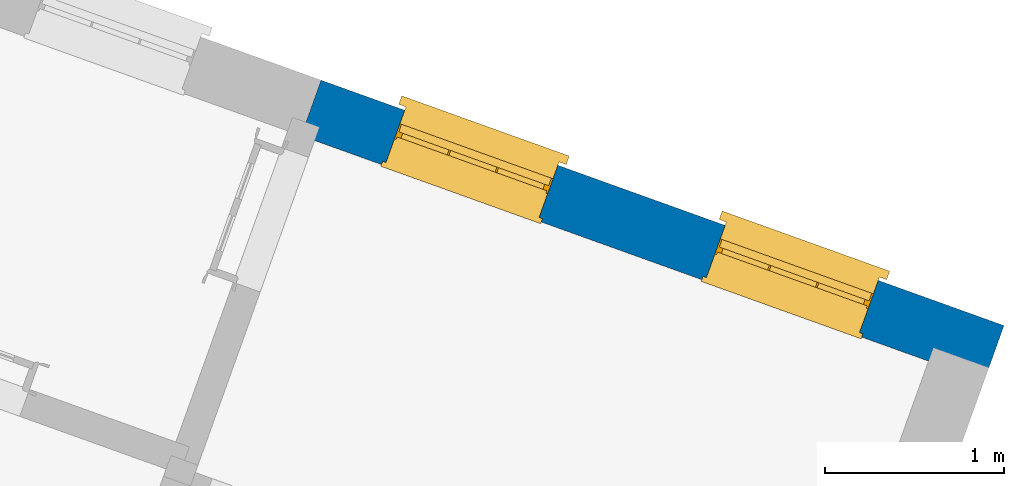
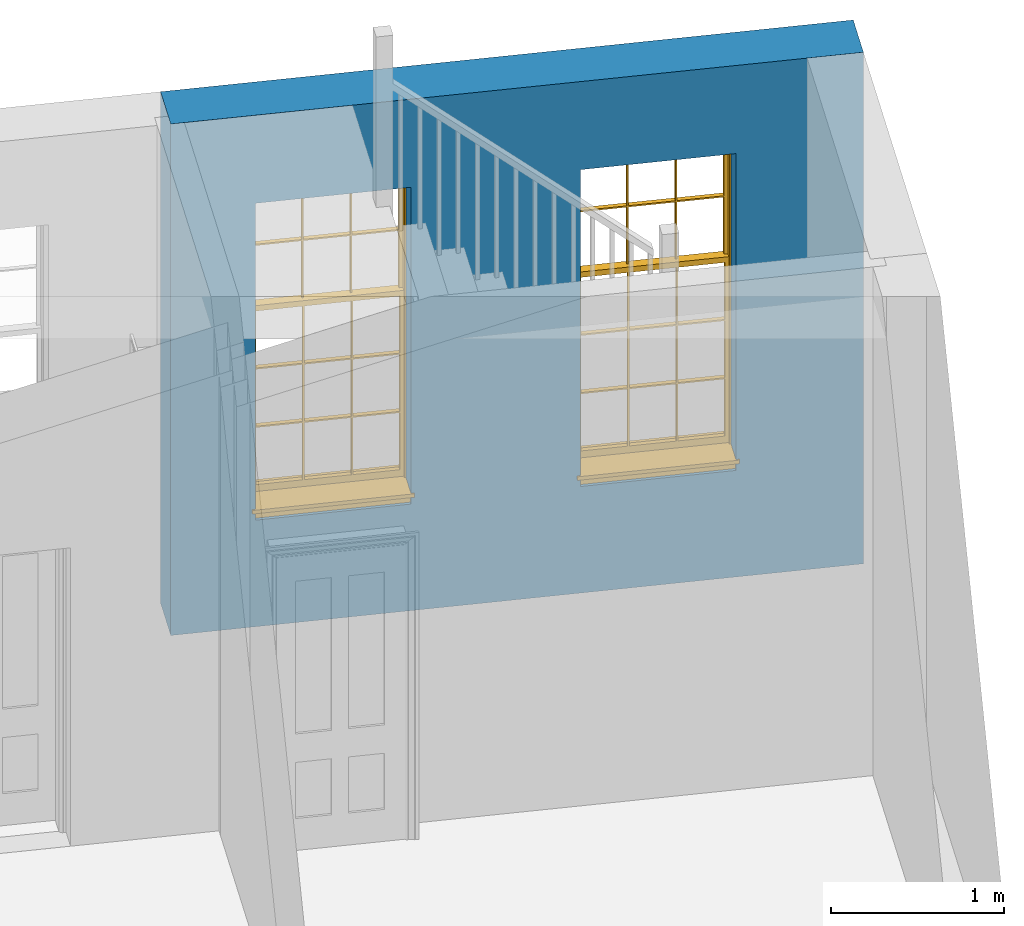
# One storey, part 4 of 6: 2 windows, 1 wall, 2 openings.
"""IFC4 building model written with IfcOpenShell, lengths in metres."""

import ifcopenshell
import ifcopenshell.guid

model = None  # the IFC model being written
_history = None  # IfcOwnerHistory: only IFC2X3 demands one
_inside = {}  # id of a spatial element -> (the spatial element, [elements in it])
_under = {}  # id of a project, library or spatial element -> (it, [spatial elements below it])
_declared = {}  # id of a project -> (the project, [libraries it declares])
_typed = {}  # id of a type object -> (the type object, [elements of that type])
_made_of = {}  # id of a material, layer set ... -> (it, [elements and type objects made of it])


def new_model(schema):
    """Start an empty IFC model of exactly this schema.

    Asked for "IFC4X3", IfcOpenShell would pick the latest addendum, in which some entities
    have other attributes; the version numbers below select the first issue.
    IFC2X3 requires an IfcOwnerHistory on every rooted entity: one is made here for all.
    """
    global model, _history
    if schema == "IFC4X3":
        model = ifcopenshell.file(schema_version=(4, 3, 0, 0))
    else:
        model = ifcopenshell.file(schema=schema)
    _inside.clear()
    _under.clear()
    _declared.clear()
    _typed.clear()
    _made_of.clear()
    _history = None
    if model.schema == "IFC2X3":
        org = make("IfcOrganization", Name="unknown")
        user = make(
            "IfcPersonAndOrganization",
            ThePerson=make("IfcPerson", FamilyName="unknown"),
            TheOrganization=org,
        )
        app = make(
            "IfcApplication",
            ApplicationDeveloper=org,
            Version="unknown",
            ApplicationFullName="unknown",
            ApplicationIdentifier="unknown",
        )
        _history = make(
            "IfcOwnerHistory",
            OwningUser=user,
            OwningApplication=app,
            ChangeAction="ADDED",
            CreationDate=0,
        )
    return model


def make(cls, **values):
    """One entity of the class cls with the attributes given. An attribute that is None is left unset."""
    return model.create_entity(
        cls, **{name: value for name, value in values.items() if value is not None}
    )


def rooted(cls, **values):
    """An entity with a GlobalId (a new one), such as an element, a storey or a relation."""
    return make(cls, GlobalId=ifcopenshell.guid.new(), OwnerHistory=_history, **values)


def si_unit(unit_type, name, prefix=None):
    """IfcSIUnit, for example si_unit("LENGTHUNIT", "METRE", prefix="MILLI")."""
    return make("IfcSIUnit", UnitType=unit_type, Prefix=prefix, Name=name)


def assignment(units):
    """IfcUnitAssignment: the units of a project."""
    return None if units is None else make("IfcUnitAssignment", Units=units)


def point(xyz):
    """IfcCartesianPoint."""
    return None if xyz is None else make("IfcCartesianPoint", Coordinates=xyz)


def direction(xyz):
    """IfcDirection."""
    return None if xyz is None else make("IfcDirection", DirectionRatios=xyz)


def frame(location, z_axis=None, x_axis=None):
    """IfcAxis2Placement3D, a coordinate frame: its origin and axes. An axis left out is left unset."""
    return make(
        "IfcAxis2Placement3D",
        Location=point(location),
        Axis=direction(z_axis),
        RefDirection=direction(x_axis),
    )


def origin():
    """The frame at (0, 0, 0) with its axes left unset."""
    return frame((0.0, 0.0, 0.0))


def origin_with_axes():
    """The frame at (0, 0, 0) with the z axis (0, 0, 1) and the x axis (1, 0, 0) written out."""
    return frame((0.0, 0.0, 0.0), z_axis=(0.0, 0.0, 1.0), x_axis=(1.0, 0.0, 0.0))


def place(relative_to, where):
    """IfcLocalPlacement: puts the frame where relative to a parent placement (None: the world)."""
    return make(
        "IfcLocalPlacement", PlacementRelTo=relative_to, RelativePlacement=where
    )


def context(
    kind, dimensions, precision=None, world=None, true_north=None, identifier=None
):
    """IfcGeometricRepresentationContext, for example the 3D "Model" context."""
    return make(
        "IfcGeometricRepresentationContext",
        ContextIdentifier=identifier,
        ContextType=kind,
        CoordinateSpaceDimension=dimensions,
        Precision=precision,
        WorldCoordinateSystem=world,
        TrueNorth=true_north,
    )


def subcontext(parent, identifier, kind, view, scale=None):
    """IfcGeometricRepresentationSubContext, for example "Body" below "Model"."""
    return make(
        "IfcGeometricRepresentationSubContext",
        ContextIdentifier=identifier,
        ContextType=kind,
        ParentContext=parent,
        TargetScale=scale,
        TargetView=view,
    )


def project(units=None, contexts=None):
    """IfcProject with its units and contexts."""
    return rooted(
        "IfcProject",
        Name="project",
        RepresentationContexts=contexts,
        UnitsInContext=assignment(units),
    )


def spatial(cls, under=None, at=None, **own):
    """A site, building, storey or space (cls), placed at a placement, below another one or the project."""
    s = rooted(cls, ObjectPlacement=at, **own)
    if under is not None:
        _under.setdefault(under.id(), (under, []))[1].append(s)
    return s


def polyline(points):
    """IfcPolyline through the points."""
    return make("IfcPolyline", Points=[point(p) for p in points])


def outline(outer, holes=None, kind="AREA"):
    """IfcArbitraryClosedProfileDef: a profile drawn as a closed curve; with holes, ...WithVoids."""
    if holes is None:
        return make("IfcArbitraryClosedProfileDef", ProfileType=kind, OuterCurve=outer)
    return make(
        "IfcArbitraryProfileDefWithVoids",
        ProfileType=kind,
        OuterCurve=outer,
        InnerCurves=holes,
    )


def extrude(swept, where, along, depth):
    """IfcExtrudedAreaSolid: the profile swept, set in the frame where, extruded along a direction by depth."""
    return make(
        "IfcExtrudedAreaSolid",
        SweptArea=swept,
        Position=where,
        ExtrudedDirection=direction(along),
        Depth=depth,
    )


def faces_of(points, faces, orient=None, outer=None):
    """IfcFace entities. A face is a list of loops; a loop is a list of indices into points, from 0.

    orient and outer hold one flag for each loop. By default every Orientation is true, the
    first loop of a face is its IfcFaceOuterBound and the others are IfcFaceBound.
    """
    made = []
    for i, loops in enumerate(faces):
        bounds = []
        for j, loop in enumerate(loops):
            is_outer = j == 0 if outer is None else outer[i][j]
            bounds.append(
                make(
                    "IfcFaceOuterBound" if is_outer else "IfcFaceBound",
                    Bound=make("IfcPolyLoop", Polygon=[points[k] for k in loop]),
                    Orientation=True if orient is None else orient[i][j],
                )
            )
        made.append(make("IfcFace", Bounds=bounds))
    return made


def faceted_brep(points, faces, orient=None, outer=None, voids=None):
    """IfcFacetedBrep: a solid bounded by flat faces; with voids (closed shells), ...WithVoids."""
    shared = [point(p) for p in points]
    hull = make("IfcClosedShell", CfsFaces=faces_of(shared, faces, orient, outer))
    if voids is None:
        return make("IfcFacetedBrep", Outer=hull)
    return make(
        "IfcFacetedBrepWithVoids",
        Outer=hull,
        Voids=[
            make(cls, CfsFaces=faces_of(shared, fs, o, b)) for cls, fs, o, b in voids
        ],
    )


def shape(context_of_items, identifier, shape_type, items):
    """IfcShapeRepresentation: the items that make up one representation, for example the "Body"."""
    return make(
        "IfcShapeRepresentation",
        ContextOfItems=context_of_items,
        RepresentationIdentifier=identifier,
        RepresentationType=shape_type,
        Items=items,
    )


def source(mapping_origin, context_of_items, identifier, shape_type, items):
    """IfcRepresentationMap: a shape defined once, which mapped items show again and again."""
    return make(
        "IfcRepresentationMap",
        MappingOrigin=mapping_origin,
        MappedRepresentation=shape(context_of_items, identifier, shape_type, items),
    )


def transform(
    local_origin,
    x_axis=None,
    y_axis=None,
    z_axis=None,
    scale=None,
    scale2=None,
    scale3=None,
    uniform=True,
):
    """IfcCartesianTransformationOperator3D, or its non-uniform kind. x_axis, y_axis, z_axis: its Axis1, 2, 3."""
    if uniform:
        return make(
            "IfcCartesianTransformationOperator3D",
            Axis1=direction(x_axis),
            Axis2=direction(y_axis),
            LocalOrigin=point(local_origin),
            Scale=scale,
            Axis3=direction(z_axis),
        )
    return make(
        "IfcCartesianTransformationOperator3DnonUniform",
        Axis1=direction(x_axis),
        Axis2=direction(y_axis),
        LocalOrigin=point(local_origin),
        Scale=scale,
        Axis3=direction(z_axis),
        Scale2=scale2,
        Scale3=scale3,
    )


def mapped(mapping_source, mapping_target):
    """IfcMappedItem: shows the shape of a source again, moved by a transform."""
    return make(
        "IfcMappedItem", MappingSource=mapping_source, MappingTarget=mapping_target
    )


def material(Name=None, Category=None):
    """IfcMaterial."""
    return make("IfcMaterial", Name=Name, Category=Category)


def layer(
    of_material, thickness, ventilated=None, Name=None, Category=None, Priority=None
):
    """IfcMaterialLayer: one layer of a wall or slab, of a material (None: an air gap)."""
    return make(
        "IfcMaterialLayer",
        Material=of_material,
        LayerThickness=thickness,
        IsVentilated=ventilated,
        Name=Name,
        Category=Category,
        Priority=Priority,
    )


def layer_set(layers, Name=None):
    """IfcMaterialLayerSet."""
    return make("IfcMaterialLayerSet", MaterialLayers=layers, LayerSetName=Name)


def layer_usage(for_layer_set, set_direction, sense, offset, extent=None):
    """IfcMaterialLayerSetUsage: how a layer set lies in its element."""
    return make(
        "IfcMaterialLayerSetUsage",
        ForLayerSet=for_layer_set,
        LayerSetDirection=set_direction,
        DirectionSense=sense,
        OffsetFromReferenceLine=offset,
        ReferenceExtent=extent,
    )


def made_of(thing, what):
    """Note that an element or type object is made of a material, layer set ...; save() writes the relation."""
    if what is not None:
        _made_of.setdefault(what.id(), (what, []))[1].append(thing)
    return thing


def type_object(cls, material=None, **own):
    """A type object (cls), such as IfcWallType, which elements share."""
    return made_of(rooted(cls, **own), material)


def type_shapes(of_type, sources):
    """Give a type object the sources (RepresentationMaps) that its elements show as mapped items."""
    of_type.RepresentationMaps = sources


def element(
    cls,
    number,
    at=None,
    inside=None,
    cuts=None,
    type_object=None,
    material=None,
    context=None,
    identifier="Body",
    shape_type=None,
    held_by="IfcProductDefinitionShape",
    body=None,
    shapes=None,
    **own,
):
    """One element of the class cls, such as IfcWall. Its Tag is "e" and its number.

    at: its placement. inside: the storey or other place that contains it. cuts: it is an
    opening in that element (IfcRelVoidsElement). A single representation is given by context,
    identifier, shape_type and body (its items); several are given by shapes. held_by: the class
    of the entity that holds the representations. save() writes the other relations.
    """
    e = rooted(cls, Tag="e%d" % number, ObjectPlacement=at, **own)
    if body is not None:
        shapes = [shape(context, identifier, shape_type, body)]
    if shapes is not None:
        e.Representation = make(held_by, Representations=shapes)
    if inside is not None:
        _inside.setdefault(inside.id(), (inside, []))[1].append(e)
    if cuts is not None:
        rooted(
            "IfcRelVoidsElement", RelatingBuildingElement=cuts, RelatedOpeningElement=e
        )
    if type_object is not None:
        _typed.setdefault(type_object.id(), (type_object, []))[1].append(e)
    return made_of(e, material)


def fill(opening, filler):
    """IfcRelFillsElement: the door or window that sits in an opening."""
    return rooted(
        "IfcRelFillsElement",
        RelatingOpeningElement=opening,
        RelatedBuildingElement=filler,
    )


def aggregate(whole, parts):
    """IfcRelAggregates: a whole, such as a stair, and the parts it consists of."""
    return rooted("IfcRelAggregates", RelatingObject=whole, RelatedObjects=parts)


def save(model, path):
    """Write the relations noted so far, then the file.

    IfcRelAggregates (storeys below a building ...), IfcRelContainedInSpatialStructure (elements
    in a storey), IfcRelDefinesByType, IfcRelAssociatesMaterial and IfcRelDeclares: one each for
    every whole, place, type object, material and project.
    """
    for whole, parts in _under.values():
        aggregate(whole, parts)
    for where, things in _inside.values():
        rooted(
            "IfcRelContainedInSpatialStructure",
            RelatedElements=things,
            RelatingStructure=where,
        )
    for kind, things in _typed.values():
        rooted("IfcRelDefinesByType", RelatedObjects=things, RelatingType=kind)
    for what, things in _made_of.values():
        rooted("IfcRelAssociatesMaterial", RelatedObjects=things, RelatingMaterial=what)
    for by, libraries in _declared.values():
        rooted("IfcRelDeclares", RelatingContext=by, RelatedDefinitions=libraries)
    model.write(path)


model = new_model("IFC4")

# Units and contexts
model_context = context("Model", 3, world=origin_with_axes())
body_context = subcontext(model_context, "Body", "Model", "MODEL_VIEW")
ifc_project = project(units=[si_unit("PLANEANGLEUNIT", "RADIAN"), si_unit("MASSUNIT", "GRAM", prefix="KILO"), si_unit("FORCEUNIT", "NEWTON", prefix="KILO"), si_unit("LENGTHUNIT", "METRE"), si_unit("AREAUNIT", "SQUARE_METRE"), si_unit("VOLUMEUNIT", "CUBIC_METRE")], contexts=[model_context, model_context])

# Sites, building, storey
site_1_placement = place(None, origin_with_axes())
site_1 = spatial("IfcSite", under=ifc_project, at=site_1_placement, Name="Tamar")
site_2_placement = place(site_1_placement, origin_with_axes())
site_2 = spatial("IfcSite", under=site_1, at=site_2_placement, Name="Site plot-21", CompositionType="ELEMENT")
building_placement = place(None, origin_with_axes())
building = spatial("IfcBuilding", under=site_2, at=building_placement, Name="Building plot-21", CompositionType="ELEMENT")
storey_placement = place(None, frame((0.0, 0.0, 26.0), z_axis=(0.0, 0.0, 1.0), x_axis=(1.0, 0.0, 0.0)))
storey = spatial("IfcBuildingStorey", under=building, at=storey_placement, Name="plot-21 0", CompositionType="ELEMENT", Elevation=26.0)

# Wall, openings, windows
ifc_material = material(Name="Masonry")
ifc_layer = layer(ifc_material, 0.33, ventilated=False)
ifc_layer_set = layer_set([ifc_layer], Name="exterior_0.08_0.25")
ifc_layer_usage = layer_usage(ifc_layer_set, "AXIS2", "POSITIVE", -0.25)
wall_type = type_object("IfcWallType", Name="exterior_0.08_0.25", PredefinedType="SOLIDWALL", material=ifc_layer_set)
wall_placement = place(storey_placement, frame((262.405675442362, 284.920063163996, 0.0), z_axis=(0.0, 0.0, 1.0), x_axis=(-0.941087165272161, 0.338164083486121, 0.0)))
wall = element("IfcWall", 1, at=wall_placement, inside=storey, type_object=wall_type, material=ifc_layer_usage, Name="exterior", context=body_context, shape_type="SweptSolid", body=[
    extrude(outline(polyline([(-0.250000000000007, 0.079999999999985), (-0.250000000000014, -0.249999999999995), (3.80822589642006, -0.250000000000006), (3.80822589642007, 0.0799999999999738), (-0.250000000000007, 0.079999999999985)])), origin_with_axes(), (0.0, 0.0, 1.0), 3.6),
])
opening_1_placement = place(wall_placement, frame((0.49705647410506, 0.0, 0.75)))
opening_1 = element("IfcOpeningElement", 2, at=opening_1_placement, cuts=wall, Name="My Opening", ObjectType="Opening", context=body_context, shape_type="SweptSolid", body=[
    extrude(outline(polyline([(0.0, -0.270000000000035), (0.909999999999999, -0.269999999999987), (0.909999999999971, 1.10000000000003), (-2.80886425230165e-14, 1.09999999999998), (0.0, -0.270000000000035)])), origin_with_axes(), (0.0, 0.0, 1.0), 2.23),
])
opening_2_placement = place(wall_placement, frame((2.40116942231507, 0.0, 0.75)))
opening_2 = element("IfcOpeningElement", 3, at=opening_2_placement, cuts=wall, Name="My Opening", ObjectType="Opening", context=body_context, shape_type="SweptSolid", body=[
    extrude(outline(polyline([(0.0, -0.270000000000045), (0.909999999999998, -0.269999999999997), (0.90999999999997, 1.10000000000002), (-2.8421709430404e-14, 1.09999999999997), (0.0, -0.270000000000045)])), origin_with_axes(), (0.0, 0.0, 1.0), 2.23),
])
window_type = type_object("IfcWindowType", Name="sash_big_taller", PartitioningType="DOUBLE_PANEL_HORIZONTAL", PredefinedType="NOTDEFINED")
shared_shape = source(origin(), body_context, "Body", "Brep", [
    faceted_brep([(0.033125, 0.145, 1.385209), (0.01, 0.145, 1.385209), (0.033125, 0.145, 1.786042), (0.876875, 0.145, 1.385209), (0.876875, 0.145, 1.786042), (0.9, 0.145, 1.385209), (0.876875, 0.145, 1.796042), (0.876875, 0.145, 2.196875), (0.9, 0.145, 2.22), (0.033125, 0.145, 2.196875), (0.033125, 0.145, 1.796042), (0.01, 0.145, 2.22), (0.876875, 0.115, 1.786042), (0.876875, 0.115, 1.385209), (0.9, 0.115, 1.347084), (0.033125, 0.115, 2.196875), (0.01, 0.115, 2.22), (0.033125, 0.115, 1.796042), (0.01, 0.115, 1.347084), (0.033125, 0.115, 1.385209), (0.033125, 0.115, 1.786042), (0.876875, 0.115, 2.196875), (0.876875, 0.115, 1.796042), (0.9, 0.115, 2.22), (0.033125, 0.145, 1.347084), (0.01, 0.145, 1.347084), (0.033125, 0.145, 0.94625), (0.876875, 0.145, 1.347084), (0.876875, 0.145, 0.94625), (0.9, 0.145, 1.347084), (0.876875, 0.145, 0.52625), (0.876875, 0.145, 0.125417), (0.9, 0.145, 0.077167), (0.033125, 0.145, 0.125417), (0.033125, 0.145, 0.52625), (0.01, 0.145, 0.077167), (-0.0425, 0.0, 0.01), (-0.0425, -0.05, 0.001667), (0.0, 0.0, 0.01), (0.9525, 0.0, 0.01), (0.91, 0.0, 0.01), (0.9525, -0.05, 0.001667), (-0.02, 0.33, 0.077167), (0.0, 0.33, 0.077167), (-0.02, 0.36, 0.077167), (0.0, 0.19, 0.077167), (0.01, 0.19, 0.077167), (0.91, 0.19, 0.077167), (0.91, 0.33, 0.077167), (0.9, 0.19, 0.077167), (0.93, 0.33, 0.077167), (0.93, 0.36, 0.077167), (0.01, 0.175, 1.385209), (0.9, 0.175, 1.385209), (0.876875, 0.175, 0.125417), (0.876875, 0.175, 0.52625), (0.9, 0.175, 0.077167), (0.876875, 0.175, 0.94625), (0.876875, 0.175, 1.347084), (0.033125, 0.175, 0.125417), (0.01, 0.175, 0.077167), (0.033125, 0.175, 0.52625), (0.033125, 0.175, 1.347084), (0.033125, 0.175, 0.94625), (-0.02, 0.33, 0.052167), (-0.02, 0.36, 0.052167), (0.93, 0.36, 0.052167), (0.93, 0.33, 0.052167), (0.91, 0.33, 0.052167), (0.0, 0.33, 0.052167), (0.91, 0.1, 0.026667), (0.0, 0.1, 0.026667), (-0.0425, -0.05, -0.123333), (0.9525, -0.05, -0.123333), (-0.0425, 0.0, -0.123333), (0.9525, 0.0, -0.123333), (0.01, 0.19, 2.22), (0.9, 0.19, 2.22), (0.0, 0.19, 2.23), (0.91, 0.19, 2.23), (0.01, 0.1, 0.077167), (0.9, 0.1, 0.077167), (0.592292, 0.145, 0.125417), (0.592292, 0.175, 0.125417), (0.317708, 0.175, 0.125417), (0.317708, 0.145, 0.125417), (0.592292, 0.145, 0.53625), (0.317708, 0.145, 0.53625), (0.317708, 0.145, 0.52625), (0.592292, 0.145, 0.52625), (0.592292, 0.175, 0.53625), (0.317708, 0.175, 0.53625), (0.592292, 0.115, 1.796042), (0.592292, 0.145, 1.796042), (0.317708, 0.145, 1.796042), (0.317708, 0.115, 1.796042), (0.317708, 0.115, 1.786042), (0.592292, 0.115, 1.786042), (0.317708, 0.145, 1.786042), (0.592292, 0.145, 1.786042), (0.602292, 0.115, 1.786042), (0.592292, 0.115, 1.385209), (0.602292, 0.115, 1.385209), (0.602292, 0.145, 1.385209), (0.592292, 0.145, 1.385209), (0.602292, 0.145, 1.786042), (0.876875, 0.145, 0.53625), (0.876875, 0.175, 0.53625), (0.602292, 0.175, 0.53625), (0.602292, 0.145, 0.53625), (0.317708, 0.175, 0.52625), (0.307708, 0.175, 0.125417), (0.307708, 0.175, 0.52625), (0.602292, 0.175, 0.52625), (0.602292, 0.175, 0.125417), (0.592292, 0.175, 0.52625), (0.307708, 0.175, 0.53625), (0.033125, 0.175, 0.53625), (0.317708, 0.175, 1.347084), (0.317708, 0.175, 0.94625), (0.307708, 0.175, 0.94625), (0.307708, 0.175, 1.347084), (0.602292, 0.175, 1.347084), (0.602292, 0.175, 0.94625), (0.592292, 0.175, 0.94625), (0.592292, 0.175, 1.347084), (0.307708, 0.145, 0.52625), (0.307708, 0.145, 0.125417), (0.307708, 0.145, 0.53625), (0.033125, 0.145, 0.53625), (0.307708, 0.145, 1.347084), (0.307708, 0.145, 0.94625), (0.592292, 0.145, 1.347084), (0.592292, 0.145, 0.94625), (0.317708, 0.145, 0.94625), (0.317708, 0.145, 1.347084), (0.602292, 0.145, 0.94625), (0.602292, 0.145, 1.347084), (0.602292, 0.145, 0.52625), (0.602292, 0.145, 0.125417), (0.307708, 0.115, 1.796042), (0.307708, 0.115, 1.786042), (0.307708, 0.115, 1.385209), (0.317708, 0.115, 1.385209), (0.317708, 0.115, 2.196875), (0.307708, 0.115, 2.196875), (0.602292, 0.115, 2.196875), (0.592292, 0.115, 2.196875), (0.602292, 0.115, 1.796042), (0.602292, 0.145, 1.796042), (0.307708, 0.145, 1.796042), (0.307708, 0.145, 2.196875), (0.317708, 0.145, 2.196875), (0.592292, 0.145, 2.196875), (0.602292, 0.145, 2.196875), (0.307708, 0.145, 1.786042), (0.317708, 0.145, 1.385209), (0.307708, 0.145, 1.385209), (0.876875, 0.175, 0.93625), (0.033125, 0.175, 0.93625), (0.033125, 0.145, 0.93625), (0.876875, 0.145, 0.93625), (0.91, 0.1, 2.23), (0.9, 0.1, 2.22), (0.01, 0.1, 2.22), (0.0, 0.1, 2.23), (0.91, 0.0, 0.0), (0.0, 0.0, 0.0), (0.91, 0.33, 0.0), (0.0, 0.33, 0.0), (0.317708, 0.145, 0.93625), (0.592292, 0.145, 0.93625), (0.317708, 0.175, 0.93625), (0.307708, 0.175, 0.93625), (0.602292, 0.175, 0.93625), (0.592292, 0.175, 0.93625), (0.307708, 0.145, 0.93625), (0.602292, 0.145, 0.93625)], [[[0, 1, 2]], [[3, 4, 5]], [[6, 7, 8]], [[9, 10, 11]], [[12, 13, 14]], [[15, 16, 17]], [[18, 19, 20]], [[21, 22, 23]], [[24, 25, 26]], [[27, 28, 29]], [[30, 31, 32]], [[33, 34, 35]], [[14, 27, 29]], [[25, 24, 18]], [[36, 37, 38]], [[39, 40, 41]], [[42, 43, 44]], [[45, 46, 43]], [[47, 48, 49]], [[50, 51, 48]], [[1, 0, 52]], [[5, 53, 3]], [[54, 55, 56]], [[57, 58, 53]], [[59, 60, 61]], [[62, 63, 52]], [[48, 43, 46, 49]], [[51, 44, 43, 48]], [[64, 42, 44, 65]], [[65, 44, 51, 66]], [[66, 51, 50, 67]], [[65, 66, 68, 69]], [[60, 56, 49, 46]], [[70, 71, 38, 40]], [[37, 41, 40, 38]], [[37, 72, 73, 41]], [[74, 75, 73, 72]], [[8, 11, 76, 77]], [[76, 78, 79, 77]], [[32, 35, 80, 81]], [[81, 80, 71, 70]], [[82, 83, 84, 85]], [[86, 87, 88, 89]], [[86, 90, 91, 87]], [[92, 93, 94, 95]], [[92, 95, 96, 97]], [[96, 98, 99, 97]], [[100, 97, 101, 102]], [[103, 104, 99, 105]], [[97, 99, 104, 101]], [[102, 103, 105, 100]], [[106, 107, 108, 109]], [[110, 84, 111, 112]], [[113, 114, 83, 115]], [[116, 112, 61, 117]], [[90, 115, 110, 91]], [[118, 119, 120, 121]], [[122, 123, 124, 125]], [[113, 108, 107, 55]], [[126, 112, 111, 127]], [[34, 61, 112, 126]], [[89, 115, 83, 82]], [[88, 110, 115, 89]], [[85, 84, 110, 88]], [[128, 116, 117, 129]], [[130, 121, 120, 131]], [[132, 125, 124, 133]], [[134, 119, 118, 135]], [[136, 123, 122, 137]], [[138, 113, 55, 30]], [[139, 114, 113, 138]], [[138, 30, 106, 109]], [[88, 126, 127, 85]], [[138, 89, 82, 139]], [[137, 132, 133, 136]], [[128, 129, 34, 126]], [[135, 130, 131, 134]], [[140, 17, 20, 141]], [[96, 141, 142, 143]], [[144, 145, 140, 95]], [[146, 147, 92, 148]], [[100, 12, 22, 148]], [[149, 6, 4, 105]], [[94, 150, 151, 152]], [[149, 93, 153, 154]], [[99, 98, 94, 93]], [[155, 2, 10, 150]], [[156, 157, 155, 98]], [[141, 155, 157, 142]], [[20, 2, 155, 141]], [[143, 156, 98, 96]], [[140, 150, 10, 17]], [[145, 151, 150, 140]], [[147, 153, 93, 92]], [[95, 94, 152, 144]], [[22, 6, 149, 148]], [[148, 149, 154, 146]], [[100, 105, 4, 12]], [[109, 86, 89, 138]], [[108, 113, 115, 90]], [[91, 110, 112, 116]], [[87, 128, 126, 88]], [[97, 100, 148, 92]], [[141, 96, 95, 140]], [[98, 155, 150, 94]], [[105, 99, 93, 149]], [[143, 101, 104, 156]], [[135, 118, 125, 132]], [[144, 152, 153, 147]], [[127, 111, 59, 33]], [[15, 9, 151, 145]], [[146, 154, 7, 21]], [[31, 54, 114, 139]], [[36, 74, 72, 37]], [[39, 41, 73, 75]], [[18, 14, 101, 143]], [[23, 16, 144, 147]], [[83, 56, 60, 84]], [[52, 53, 125, 118]], [[53, 52, 156, 104]], [[11, 8, 153, 152]], [[14, 18, 135, 132]], [[2, 1, 11, 10]], [[8, 5, 4, 6]], [[57, 53, 56, 158]], [[60, 52, 63, 159]], [[26, 25, 35, 160]], [[32, 29, 28, 161]], [[14, 23, 22, 12]], [[18, 20, 17, 16]], [[19, 0, 2, 20]], [[17, 10, 9, 15]], [[12, 4, 3, 13]], [[21, 7, 6, 22]], [[27, 58, 57, 28]], [[30, 55, 54, 31]], [[33, 59, 61, 34]], [[26, 63, 62, 24]], [[5, 8, 77, 53]], [[76, 11, 1, 52]], [[46, 45, 78, 76]], [[49, 77, 79, 47]], [[70, 162, 163, 81]], [[71, 80, 164, 165]], [[19, 142, 157, 0]], [[102, 13, 3, 103]], [[121, 130, 24, 62]], [[29, 32, 81, 14]], [[80, 35, 25, 18]], [[60, 46, 76, 52]], [[77, 49, 56, 53]], [[23, 14, 81, 163]], [[16, 164, 80, 18]], [[35, 85, 127]], [[127, 33, 35]], [[139, 82, 32]], [[32, 31, 139]], [[32, 82, 85, 35]], [[102, 101, 14]], [[14, 13, 102]], [[18, 143, 142]], [[142, 19, 18]], [[146, 21, 23]], [[23, 147, 146]], [[16, 15, 145]], [[145, 144, 16]], [[11, 152, 151]], [[151, 9, 11]], [[154, 153, 8]], [[8, 7, 154]], [[23, 163, 164, 16]], [[162, 165, 164, 163]], [[52, 118, 121]], [[121, 62, 52]], [[125, 53, 122]], [[58, 122, 53]], [[27, 137, 122, 58]], [[56, 83, 114]], [[114, 54, 56]], [[111, 84, 60]], [[60, 59, 111]], [[137, 27, 14]], [[14, 132, 137]], [[130, 135, 18]], [[18, 24, 130]], [[157, 156, 52]], [[52, 0, 157]], [[103, 3, 53]], [[53, 104, 103]], [[79, 78, 165, 162]], [[78, 45, 71, 165]], [[162, 70, 47, 79]], [[166, 75, 74, 167]], [[68, 66, 67]], [[48, 68, 67, 50]], [[69, 64, 65]], [[42, 64, 69, 43]], [[69, 68, 168, 169]], [[70, 68, 48, 47]], [[166, 168, 68, 70]], [[43, 69, 71, 45]], [[69, 169, 167, 71]], [[168, 166, 167, 169]], [[38, 167, 74, 36]], [[71, 167, 38]], [[39, 75, 166, 40]], [[40, 166, 70]], [[133, 134, 170, 171]], [[133, 124, 119, 134]], [[28, 57, 123, 136]], [[172, 91, 116, 173]], [[174, 108, 90, 175]], [[120, 173, 159, 63]], [[124, 175, 172, 119]], [[174, 123, 57, 158]], [[176, 173, 116, 128]], [[160, 159, 173, 176]], [[171, 175, 90, 86]], [[170, 172, 175, 171]], [[87, 91, 172, 170]], [[131, 120, 63, 26]], [[177, 174, 158, 161]], [[109, 108, 174, 177]], [[177, 161, 28, 136]], [[170, 176, 128, 87]], [[177, 171, 86, 109]], [[131, 26, 160, 176]], [[136, 133, 171, 177]], [[123, 174, 175, 124]], [[119, 172, 173, 120]], [[134, 131, 176, 170]], [[129, 117, 159, 160]], [[161, 158, 107, 106]], [[35, 34, 129]], [[35, 129, 160]], [[32, 106, 30]], [[32, 161, 106]], [[56, 55, 107]], [[56, 107, 158]], [[60, 117, 61]], [[60, 159, 117]]]),
])
type_shapes(window_type, [shared_shape])
window_1_placement = place(storey_placement, frame((262.029206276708, 285.342243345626, 0.75), z_axis=(0.0, 0.0, 1.0), x_axis=(-0.856389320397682, 0.307729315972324, 0.0)))
window_1 = element("IfcWindow", 4, at=window_1_placement, inside=storey, type_object=window_type, Name="circulation street window", OverallHeight=2.23, OverallWidth=0.91, context=body_context, shape_type="MappedRepresentation", body=[
    mapped(shared_shape, transform((0.0, 0.0, 0.0), scale=1.0)),
])
fill(opening_1, window_1)
window_2_placement = place(storey_placement, frame((260.237270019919, 285.986145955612, 0.75), z_axis=(0.0, 0.0, 1.0), x_axis=(-0.856389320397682, 0.307729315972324, 0.0)))
window_2 = element("IfcWindow", 5, at=window_2_placement, inside=storey, type_object=window_type, Name="circulation street window", OverallHeight=2.23, OverallWidth=0.91, context=body_context, shape_type="MappedRepresentation", body=[
    mapped(shared_shape, transform((0.0, 0.0, 0.0), scale=1.0)),
])
fill(opening_2, window_2)

save(model, "model.ifc")
